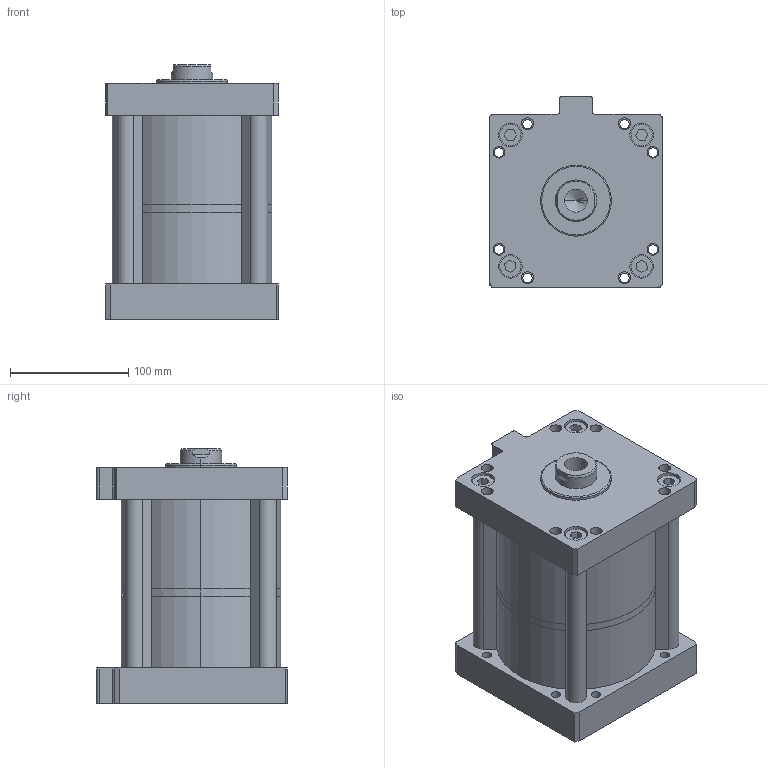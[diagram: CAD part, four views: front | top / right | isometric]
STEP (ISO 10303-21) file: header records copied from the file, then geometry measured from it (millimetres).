
FILE_DESCRIPTION (( 'STEP AP203' ), '1' );
FILE_NAME ('MHK-125-50-F-2.STEP', '2016-03-30T09:14:00', ( 'WIN' ), ( '' ), 'SwSTEP 2.0', 'SolidWorks 2014', '' );
FILE_SCHEMA (( 'CONFIG_CONTROL_DESIGN' ));
Length unit declared in the file: millimetre
Products named in the file (1): MHK-125-50-F-2
Bounding box: 146 x 161 x 215.5 mm (x, y, z)
Volume: 3318266.3 mm3; surface area: 304663.1 mm2
Topology: 2 solids, 6 shells, 279 faces, 673 edges, 443 vertices
Faces by surface type: plane 141, cylinder 124, cone 12, torus 2
Entity records: 8322 total; most frequent: DIRECTION 1485, CARTESIAN_POINT 1422, ORIENTED_EDGE 1334, EDGE_CURVE 667, AXIS2_PLACEMENT_3D 546, VERTEX_POINT 443, VECTOR 393, LINE 393
